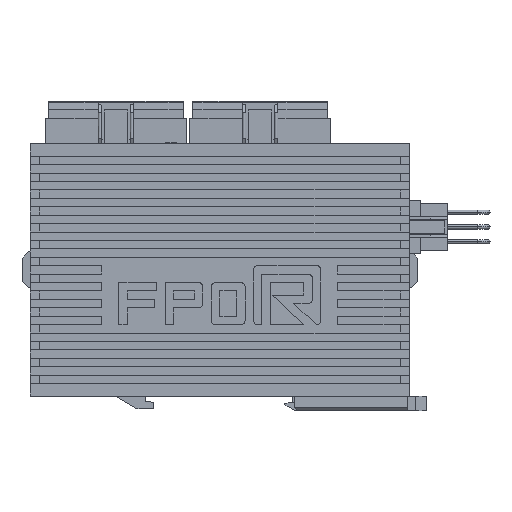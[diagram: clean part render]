
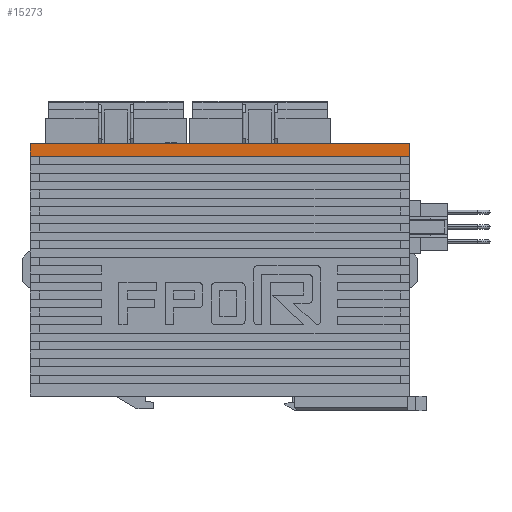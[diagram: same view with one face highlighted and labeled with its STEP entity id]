
A CAD part, left-side view. The second image highlights one B-rep face of the part: STEP entity #15273.
In plain terms, the highlighted planar face has unit normal (-1, 0, 0).
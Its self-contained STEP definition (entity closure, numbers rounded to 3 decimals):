
#2689 = CARTESIAN_POINT ( 'NONE',  ( -12.5, 45., 57. ) ) ;
#2703 = CARTESIAN_POINT ( 'NONE',  ( -12.5, 45., 60. ) ) ;
#2781 = DIRECTION ( 'NONE',  ( 0., 0., -1. ) ) ;
#2782 = VECTOR ( 'NONE', #2781, 1000. ) ;
#2783 = CARTESIAN_POINT ( 'NONE',  ( -12.5, 45., 60. ) ) ;
#2794 = LINE ( 'NONE', #2783, #2782 ) ;
#5688 = CARTESIAN_POINT ( 'NONE',  ( -12.5, -45., 60. ) ) ;
#5692 = CARTESIAN_POINT ( 'NONE',  ( -12.5, -45., 57. ) ) ;
#5702 = DIRECTION ( 'NONE',  ( 0., 0., -1. ) ) ;
#5703 = VECTOR ( 'NONE', #5702, 1000. ) ;
#5704 = CARTESIAN_POINT ( 'NONE',  ( -12.5, -45., 60. ) ) ;
#5709 = LINE ( 'NONE', #5704, #5703 ) ;
#13234 = ORIENTED_EDGE ( 'NONE', *, *, #39795, .T. ) ;
#15102 = ORIENTED_EDGE ( 'NONE', *, *, #15206, .F. ) ;
#15206 = EDGE_CURVE ( 'NONE', #39015, #42651, #30730, .T. ) ;
#15228 = EDGE_LOOP ( 'NONE', ( #13234, #15575, #15541, #15102 ) ) ;
#15273 = ADVANCED_FACE ( 'NONE', ( #30807 ), #30797, .F. ) ;
#15378 = EDGE_CURVE ( 'NONE', #42649, #39061, #30873, .T. ) ;
#15541 = ORIENTED_EDGE ( 'NONE', *, *, #42643, .F. ) ;
#15575 = ORIENTED_EDGE ( 'NONE', *, *, #15378, .F. ) ;
#30721 = CARTESIAN_POINT ( 'NONE',  ( -12.5, 45., 60. ) ) ;
#30730 = LINE ( 'NONE', #30721, #30780 ) ;
#30758 = AXIS2_PLACEMENT_3D ( 'NONE', #30787, #30786, #30785 ) ;
#30779 = DIRECTION ( 'NONE',  ( 0., -1., 0. ) ) ;
#30780 = VECTOR ( 'NONE', #30779, 1000. ) ;
#30785 = DIRECTION ( 'NONE',  ( 0., 1., 0. ) ) ;
#30786 = DIRECTION ( 'NONE',  ( 1., 0., 0. ) ) ;
#30787 = CARTESIAN_POINT ( 'NONE',  ( -12.5, 45., 60. ) ) ;
#30797 = PLANE ( 'NONE',  #30758 ) ;
#30807 = FACE_OUTER_BOUND ( 'NONE', #15228, .T. ) ;
#30873 = LINE ( 'NONE', #30939, #30936 ) ;
#30935 = DIRECTION ( 'NONE',  ( 0., 1., 0. ) ) ;
#30936 = VECTOR ( 'NONE', #30935, 1000. ) ;
#30939 = CARTESIAN_POINT ( 'NONE',  ( -12.5, 45., 57. ) ) ;
#39015 = VERTEX_POINT ( 'NONE', #2703 ) ;
#39061 = VERTEX_POINT ( 'NONE', #2689 ) ;
#39795 = EDGE_CURVE ( 'NONE', #39015, #39061, #2794, .T. ) ;
#42643 = EDGE_CURVE ( 'NONE', #42651, #42649, #5709, .T. ) ;
#42649 = VERTEX_POINT ( 'NONE', #5692 ) ;
#42651 = VERTEX_POINT ( 'NONE', #5688 ) ;
